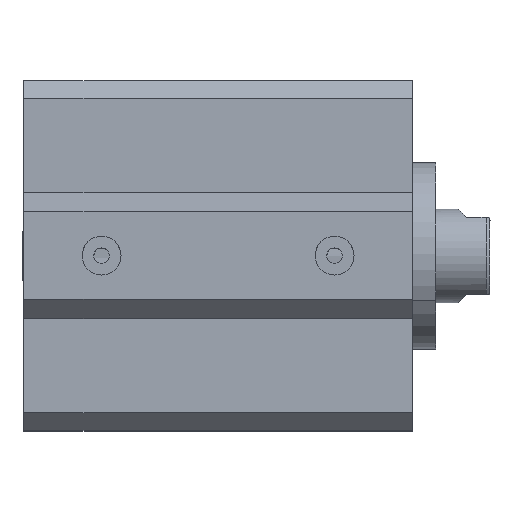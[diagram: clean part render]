
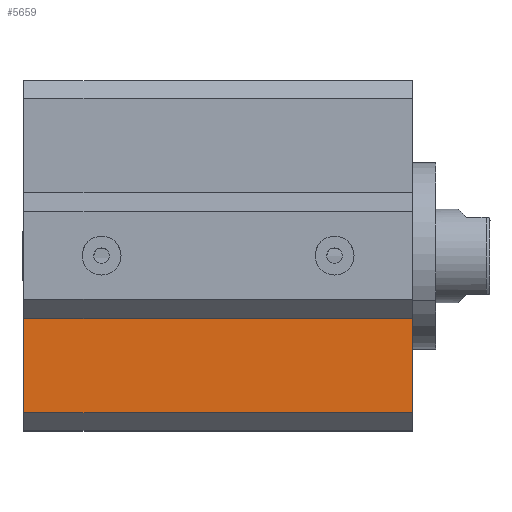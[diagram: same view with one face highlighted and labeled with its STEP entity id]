
A CAD part, top view. The second image highlights one B-rep face of the part: STEP entity #5659.
In plain terms, the highlighted planar face has unit normal (0, 0, 1).
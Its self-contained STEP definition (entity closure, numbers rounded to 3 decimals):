
#3320=CARTESIAN_POINT('Axis2P3D Location',(0.,8.125,22.5)) ;
#4347=CARTESIAN_POINT('Vertex',(0.,-20.25,22.5)) ;
#4350=CARTESIAN_POINT('Line Origine',(0.,-14.188,22.5)) ;
#4354=CARTESIAN_POINT('Vertex',(0.,-8.125,22.5)) ;
#5622=CARTESIAN_POINT('Line Origine',(25.,-20.25,22.5)) ;
#5626=CARTESIAN_POINT('Vertex',(50.,-20.25,22.5)) ;
#5641=CARTESIAN_POINT('Line Origine',(25.,-8.125,22.5)) ;
#5645=CARTESIAN_POINT('Vertex',(50.,-8.125,22.5)) ;
#5648=CARTESIAN_POINT('Line Origine',(50.,-14.188,22.5)) ;
#3321=DIRECTION('Axis2P3D Direction',(0.,0.,-1.)) ;
#3322=DIRECTION('Axis2P3D XDirection',(0.,1.,0.)) ;
#4351=DIRECTION('Vector Direction',(0.,1.,0.)) ;
#5623=DIRECTION('Vector Direction',(1.,0.,0.)) ;
#5642=DIRECTION('Vector Direction',(1.,0.,0.)) ;
#5649=DIRECTION('Vector Direction',(0.,1.,0.)) ;
#3323=AXIS2_PLACEMENT_3D('Plane Axis2P3D',#3320,#3321,#3322) ;
#5654=ORIENTED_EDGE('',*,*,#5647,.F.) ;
#5655=ORIENTED_EDGE('',*,*,#4356,.T.) ;
#5656=ORIENTED_EDGE('',*,*,#5628,.T.) ;
#5657=ORIENTED_EDGE('',*,*,#5652,.F.) ;
#4352=VECTOR('Line Direction',#4351,1.) ;
#5624=VECTOR('Line Direction',#5623,1.) ;
#5643=VECTOR('Line Direction',#5642,1.) ;
#5650=VECTOR('Line Direction',#5649,1.) ;
#5659=ADVANCED_FACE('PartBody',(#5658),#3324,.F.) ;
#4356=EDGE_CURVE('',#4355,#4348,#4353,.F.) ;
#5628=EDGE_CURVE('',#4348,#5627,#5625,.T.) ;
#5647=EDGE_CURVE('',#4355,#5646,#5644,.T.) ;
#5652=EDGE_CURVE('',#5646,#5627,#5651,.F.) ;
#5653=EDGE_LOOP('',(#5654,#5655,#5656,#5657)) ;
#5658=FACE_OUTER_BOUND('',#5653,.T.) ;
#4353=LINE('Line',#4350,#4352) ;
#5625=LINE('Line',#5622,#5624) ;
#5644=LINE('Line',#5641,#5643) ;
#5651=LINE('Line',#5648,#5650) ;
#3324=PLANE('',#3323) ;
#4348=VERTEX_POINT('',#4347) ;
#4355=VERTEX_POINT('',#4354) ;
#5627=VERTEX_POINT('',#5626) ;
#5646=VERTEX_POINT('',#5645) ;
